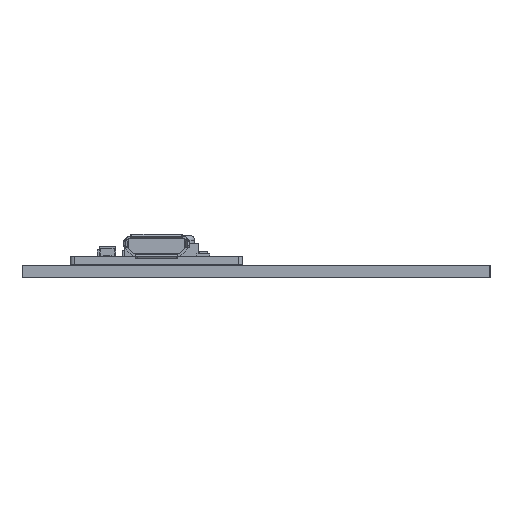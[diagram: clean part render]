
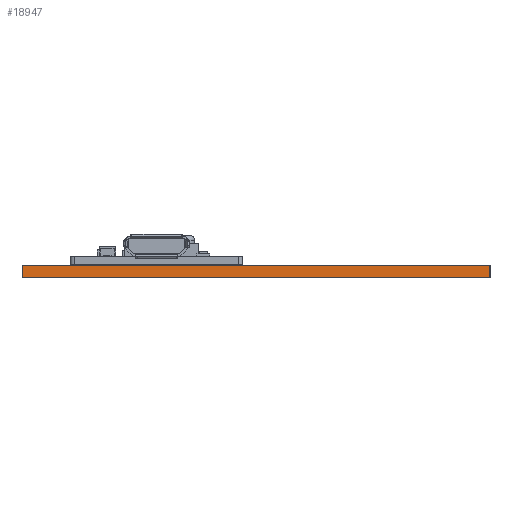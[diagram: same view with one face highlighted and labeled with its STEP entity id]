
A CAD part, left-side view. The second image highlights one B-rep face of the part: STEP entity #18947.
In plain terms, the highlighted planar face has unit normal (-1, 0, 0).
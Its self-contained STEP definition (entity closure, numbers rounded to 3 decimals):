
#18891 = VERTEX_POINT('',#18892);
#18892 = CARTESIAN_POINT('',(90.,-135.,1.51));
#18898 = EDGE_CURVE('',#18899,#18891,#18901,.T.);
#18899 = VERTEX_POINT('',#18900);
#18900 = CARTESIAN_POINT('',(90.,-135.,0.));
#18901 = LINE('',#18902,#18903);
#18902 = CARTESIAN_POINT('',(90.,-135.,0.));
#18903 = VECTOR('',#18904,1.);
#18904 = DIRECTION('',(0.,0.,1.));
#18947 = ADVANCED_FACE('',(#18948),#18973,.T.);
#18948 = FACE_BOUND('',#18949,.T.);
#18949 = EDGE_LOOP('',(#18950,#18951,#18959,#18967));
#18950 = ORIENTED_EDGE('',*,*,#18898,.T.);
#18951 = ORIENTED_EDGE('',*,*,#18952,.T.);
#18952 = EDGE_CURVE('',#18891,#18953,#18955,.T.);
#18953 = VERTEX_POINT('',#18954);
#18954 = CARTESIAN_POINT('',(90.,-78.,1.51));
#18955 = LINE('',#18956,#18957);
#18956 = CARTESIAN_POINT('',(90.,-135.,1.51));
#18957 = VECTOR('',#18958,1.);
#18958 = DIRECTION('',(0.,1.,0.));
#18959 = ORIENTED_EDGE('',*,*,#18960,.F.);
#18960 = EDGE_CURVE('',#18961,#18953,#18963,.T.);
#18961 = VERTEX_POINT('',#18962);
#18962 = CARTESIAN_POINT('',(90.,-78.,0.));
#18963 = LINE('',#18964,#18965);
#18964 = CARTESIAN_POINT('',(90.,-78.,0.));
#18965 = VECTOR('',#18966,1.);
#18966 = DIRECTION('',(0.,0.,1.));
#18967 = ORIENTED_EDGE('',*,*,#18968,.F.);
#18968 = EDGE_CURVE('',#18899,#18961,#18969,.T.);
#18969 = LINE('',#18970,#18971);
#18970 = CARTESIAN_POINT('',(90.,-135.,0.));
#18971 = VECTOR('',#18972,1.);
#18972 = DIRECTION('',(0.,1.,0.));
#18973 = PLANE('',#18974);
#18974 = AXIS2_PLACEMENT_3D('',#18975,#18976,#18977);
#18975 = CARTESIAN_POINT('',(90.,-135.,0.));
#18976 = DIRECTION('',(-1.,0.,0.));
#18977 = DIRECTION('',(0.,1.,0.));
